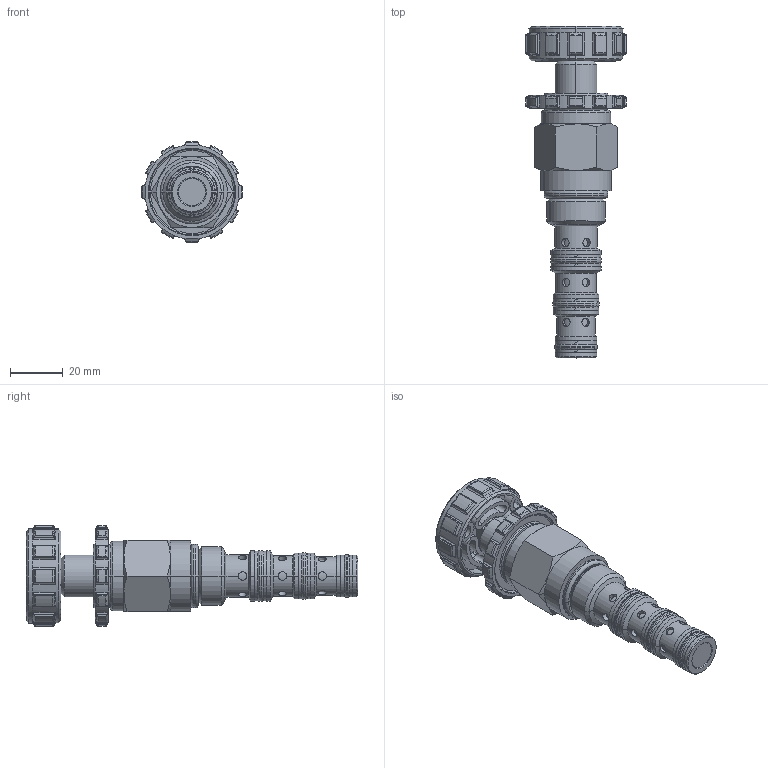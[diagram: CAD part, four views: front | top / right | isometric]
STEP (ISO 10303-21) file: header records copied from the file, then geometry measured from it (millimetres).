
FILE_DESCRIPTION((''),'2;1');
FILE_NAME('DCPS-10-A-K-OUT','2015-12-21T',('torrese'),(''),'PRO/ENGINEER BY PARAMETRIC TECHNOLOGY CORPORATION, 2015070','PRO/ENGINEER BY PARAMETRIC TECHNOLOGY CORPORATION, 2015070','');
FILE_SCHEMA(('CONFIG_CONTROL_DESIGN','GEOMETRIC_VALIDATION_PROPERTIES_MIM'));
Length unit declared in the file: inch
Products named in the file (1): DCPS-10-A-K-OUT
Bounding box: 38.07 x 125.55 x 38.07 mm (x, y, z)
Volume: 49099.2 mm3; surface area: 18473.2 mm2
Topology: 1 solids, 1 shells, 629 faces, 1613 edges, 1015 vertices
Faces by surface type: cylinder 307, plane 145, cone 101, torus 76
Entity records: 43630 total; most frequent: CARTESIAN_POINT 19580, ORIENTED_EDGE 3226, DIRECTION 2928, PRESENTATION_STYLE_ASSIGNMENT 2156, STYLED_ITEM 1622, CURVE_STYLE 1613, EDGE_CURVE 1613, AXIS2_PLACEMENT_3D 1192
